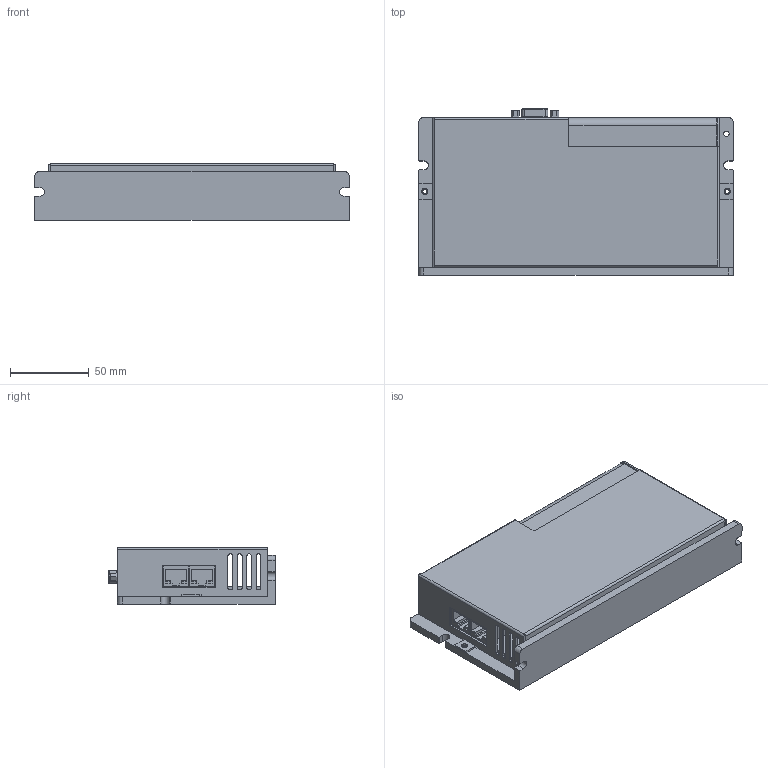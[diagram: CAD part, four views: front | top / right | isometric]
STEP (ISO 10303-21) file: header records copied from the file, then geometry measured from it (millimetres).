
FILE_DESCRIPTION((''),'2;1');
FILE_NAME('000-FD144S_ASM','2022-11-09T10:13:52',('RD0060'),(''),'CREO PARAMETRIC BY PTC INC, 2016510','CREO PARAMETRIC BY PTC INC, 2016510','');
FILE_SCHEMA(('CONFIG_CONTROL_DESIGN'));
Length unit declared in the file: millimetre
Products named in the file (15): PCB-143A; DINKLE_ESKW116V_07P; DINKLE-0156-2512L; DINKLE-0156-2512L_ASM; WEBKOU_15; BOMA_4; 15ZHEN-DAOLISHI_2; ASSY_PCA_BOTTOM_ASM; FD144HT; M300; 000; FD144-EAHS; SCREW_M4X9; ECK; 000-FD144S_ASM
Assembly tree (27 placements, depth 4):
  000-FD144S_ASM
    ASSY_PCA_BOTTOM_ASM
      PCB-143A
      DINKLE_ESKW116V_07P
      DINKLE-0156-2512L_ASM
        DINKLE-0156-2512L
      WEBKOU_15
      BOMA_4
      15ZHEN-DAOLISHI_2
    FD144HT
    M300  x8
    000
    FD144-EAHS
    SCREW_M4X9  x7
    ECK
Bounding box: 200 x 106.03 x 35.8 mm (x, y, z)
Volume: 275035 mm3; surface area: 187119.5 mm2
Topology: 38 solids, 38 shells, 1537 faces, 3714 edges, 2358 vertices
Faces by surface type: plane 773, cylinder 530, bspline 168, torus 36, cone 30
Entity records: 28605 total; most frequent: CARTESIAN_POINT 6173, DIRECTION 4682, ORIENTED_EDGE 4456, EDGE_CURVE 2228, AXIS2_PLACEMENT_3D 1578, VECTOR 1526, LINE 1526, VERTEX_POINT 1448
